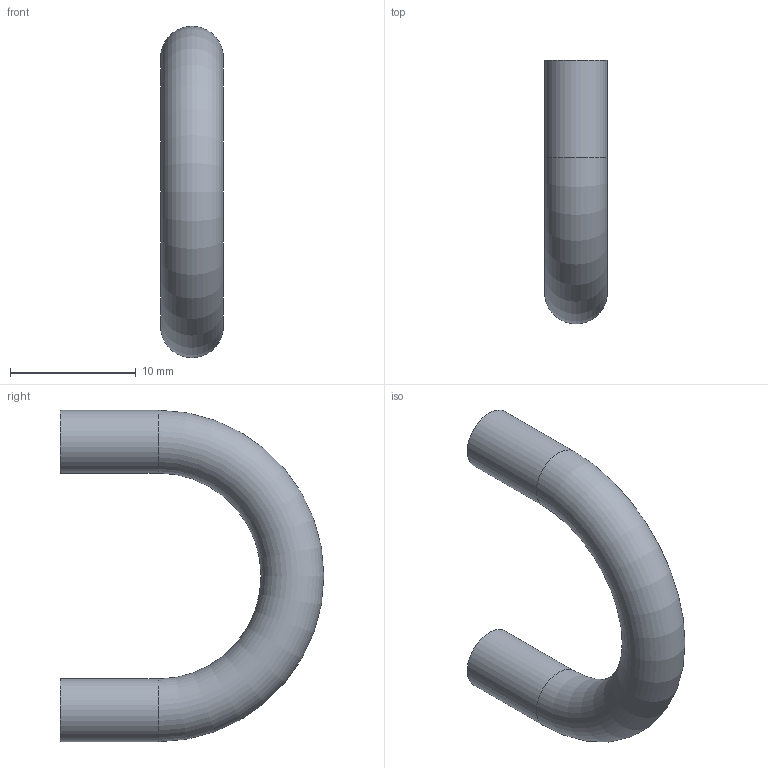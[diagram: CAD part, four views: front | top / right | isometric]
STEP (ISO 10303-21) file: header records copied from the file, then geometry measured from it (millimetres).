
FILE_DESCRIPTION(/* description */ (''),/* implementation_level */ '2;1');
FILE_NAME(/* name */ 'szafka_zaczep.step',/* time_stamp */ '2026-04-10T14:34:41+02:00',/* author */ (''),/* organization */ (''),/* preprocessor_version */ 'ST-DEVELOPER v20.1',/* originating_system */ 'Autodesk Translation Framework v14.24.0.0',/* authorisation */ '');
FILE_SCHEMA (('AUTOMOTIVE_DESIGN { 1 0 10303 214 3 1 1 }'));
Length unit declared in the file: millimetre
Products named in the file (1): 2026-04-10-12-33-59-964
Bounding box: 5 x 21 x 26.4 mm (x, y, z)
Volume: 966.3 mm3; surface area: 812.3 mm2
Topology: 1 solids, 1 shells, 5 faces, 9 edges, 6 vertices
Faces by surface type: cylinder 2, plane 2, torus 1
Full cylindrical faces by diameter (mm): 5 x2
Entity records: 163 total; most frequent: DIRECTION 28, CARTESIAN_POINT 21, ORIENTED_EDGE 18, AXIS2_PLACEMENT_3D 13, EDGE_CURVE 9, CIRCLE 7, VERTEX_POINT 6, FACE_OUTER_BOUND 5
